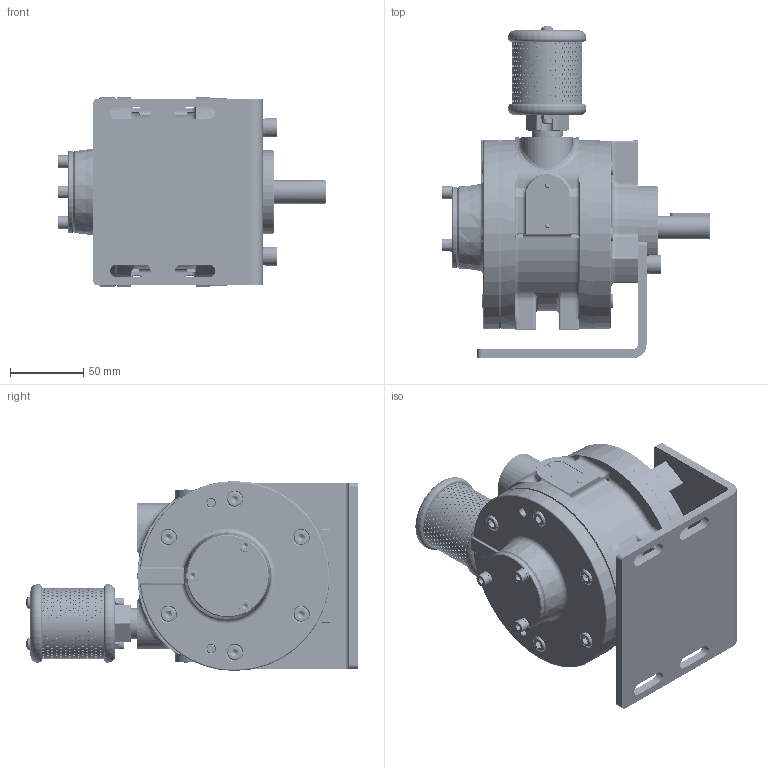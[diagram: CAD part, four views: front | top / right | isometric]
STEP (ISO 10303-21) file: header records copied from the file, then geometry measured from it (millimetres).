
FILE_DESCRIPTION (( 'STEP AP214' ), '1' );
FILE_NAME ('6VMS (Foot)_Solid 31-07-25.STEP', '2025-07-31T10:11:44', ( '' ), ( '' ), 'SwSTEP 2.0', 'SolidWorks 2017', '' );
FILE_SCHEMA (( 'AUTOMOTIVE_DESIGN' ));
Length unit declared in the file: millimetre
Products named in the file (2): 6VMS (Foot)_Solid 31-07-25
Bounding box: 183.13 x 227.17 x 130 mm (x, y, z)
Volume: 1362945.4 mm3; surface area: 404591.7 mm2
Topology: 89 solids, 89 shells, 5864 faces, 14712 edges, 8960 vertices
Faces by surface type: cylinder 2837, cone 1523, plane 1034, torus 312, bspline 128, sphere 30
Entity records: 286548 total; most frequent: CARTESIAN_POINT 83233, ORIENTED_EDGE 29104, DIRECTION 27167, EDGE_CURVE 14552, AXIS2_PLACEMENT_3D 10641, VERTEX_POINT 8960, EDGE_LOOP 7620, UNCERTAINTY_MEASURE_WITH_UNIT 5955
